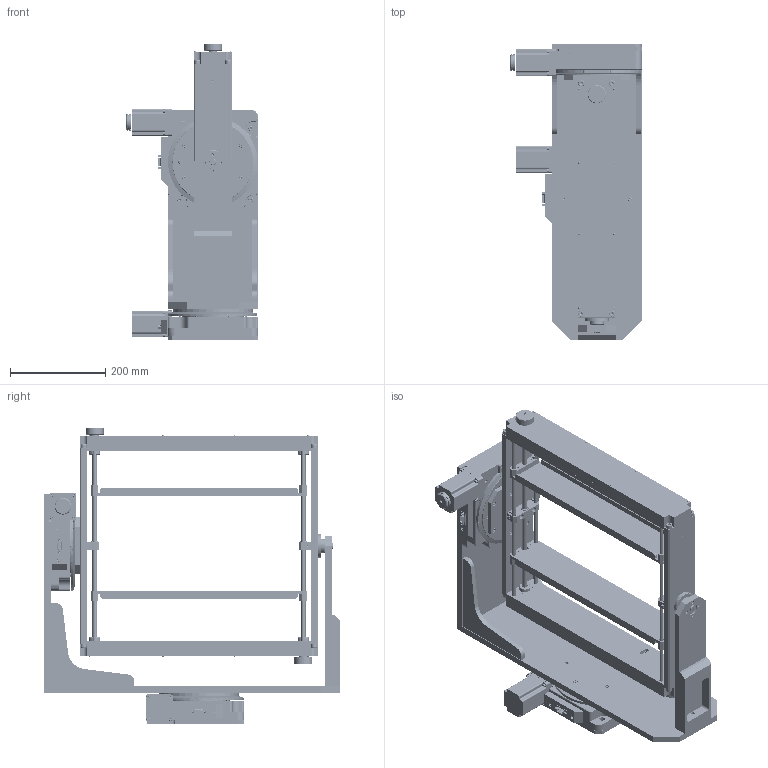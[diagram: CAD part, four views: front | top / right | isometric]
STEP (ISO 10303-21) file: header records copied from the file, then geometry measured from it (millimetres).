
FILE_DESCRIPTION(/* description */ (''),/* implementation_level */ '2;1');
FILE_NAME(/* name */ 'U:\KONSTRUKTORIAI\DOKUMENTACIJA\8\8-00\8-0031\STEP\8-0031 SB.stp',/* time_stamp */ '2014-12-18T10:32:30+02:00',/* author */ ('dsgn32'),/* organization */ (''),/* preprocessor_version */ 'ST-DEVELOPER v15.2',/* originating_system */ 'Autodesk Inventor 2014',/* authorisation */ '');
FILE_SCHEMA (('AUTOMOTIVE_DESIGN { 1 0 10303 214 3 1 1 }'));
Products named in the file (2): Part2; Assembly1
Bounding box: 277.5 x 621 x 623.5 mm (x, y, z)
Volume: 9782097.9 mm3; surface area: 2122588.5 mm2
Topology: 4 solids, 397 shells, 11027 faces, 28550 edges, 18671 vertices
Faces by surface type: plane 5299, cylinder 2650, cone 1095, bspline 1014, torus 785, sphere 184
Full cylindrical faces by diameter (mm): 0.395 x170, 1 x18, 1.5 x4, 1.567 x28, 1.783 x16, 2 x16, 2.013 x16, 2.4 x4, 2.459 x40, 2.5 x29, 2.53 x4, 2.6 x4, 2.9 x6, 3 x40, 3.242 x112, 3.302 x4, 3.5 x26, 3.621 x8, 4 x64, 4.134 x16, 4.3 x14, 4.5 x94, 4.917 x51, 5 x26, 5.5 x14, 5.7 x24, 6 x64, 6.3 x4, 6.35 x5, 6.4 x8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
Entity records: 395546 total; most frequent: CARTESIAN_POINT 155021, ORIENTED_EDGE 48194, DIRECTION 46429, EDGE_CURVE 24095, AXIS2_PLACEMENT_3D 18161, VERTEX_POINT 17097, EDGE_LOOP 15484, ADVANCED_FACE 11027
